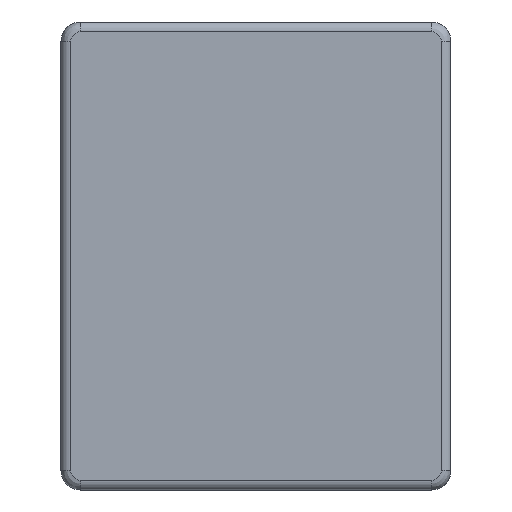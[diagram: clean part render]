
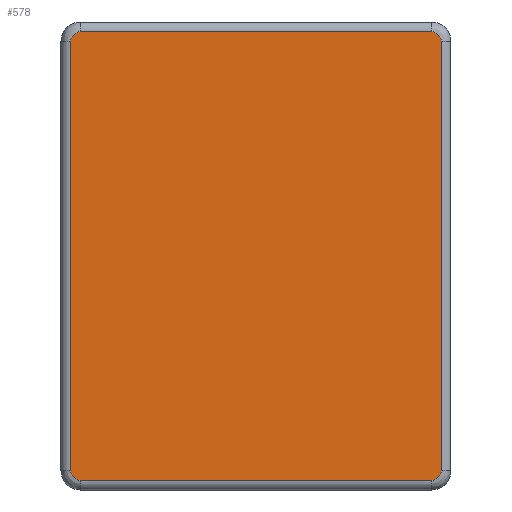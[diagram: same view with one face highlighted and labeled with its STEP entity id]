
A CAD part, left-side view. The second image highlights one B-rep face of the part: STEP entity #578.
In plain terms, the highlighted planar face has unit normal (-1, 0, 0).
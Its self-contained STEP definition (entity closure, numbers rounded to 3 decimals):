
#39=PLANE('',#662);
#69=FACE_OUTER_BOUND('',#109,.T.);
#109=EDGE_LOOP('',(#474,#475,#476,#477,#478,#479,#480,#481));
#144=LINE('',#962,#183);
#145=LINE('',#981,#184);
#147=LINE('',#1001,#186);
#149=LINE('',#1021,#188);
#183=VECTOR('',#774,10.);
#184=VECTOR('',#785,10.);
#186=VECTOR('',#797,10.);
#188=VECTOR('',#809,10.);
#222=CIRCLE('',#640,0.5);
#226=CIRCLE('',#645,0.5);
#230=CIRCLE('',#650,0.5);
#234=CIRCLE('',#655,0.5);
#267=VERTEX_POINT('',#955);
#270=VERTEX_POINT('',#960);
#272=VERTEX_POINT('',#973);
#274=VERTEX_POINT('',#979);
#276=VERTEX_POINT('',#993);
#278=VERTEX_POINT('',#999);
#280=VERTEX_POINT('',#1013);
#282=VERTEX_POINT('',#1019);
#329=EDGE_CURVE('',#270,#267,#144,.T.);
#331=EDGE_CURVE('',#272,#270,#222,.T.);
#334=EDGE_CURVE('',#274,#272,#145,.T.);
#337=EDGE_CURVE('',#276,#274,#226,.T.);
#340=EDGE_CURVE('',#278,#276,#147,.T.);
#343=EDGE_CURVE('',#280,#278,#230,.T.);
#346=EDGE_CURVE('',#282,#280,#149,.T.);
#349=EDGE_CURVE('',#267,#282,#234,.T.);
#474=ORIENTED_EDGE('',*,*,#329,.F.);
#475=ORIENTED_EDGE('',*,*,#331,.F.);
#476=ORIENTED_EDGE('',*,*,#334,.F.);
#477=ORIENTED_EDGE('',*,*,#337,.F.);
#478=ORIENTED_EDGE('',*,*,#340,.F.);
#479=ORIENTED_EDGE('',*,*,#343,.F.);
#480=ORIENTED_EDGE('',*,*,#346,.F.);
#481=ORIENTED_EDGE('',*,*,#349,.F.);
#578=ADVANCED_FACE('',(#69),#39,.F.);
#640=AXIS2_PLACEMENT_3D('',#975,#777,#778);
#645=AXIS2_PLACEMENT_3D('',#995,#789,#790);
#650=AXIS2_PLACEMENT_3D('',#1015,#801,#802);
#655=AXIS2_PLACEMENT_3D('',#1033,#813,#814);
#662=AXIS2_PLACEMENT_3D('',#1049,#833,#834);
#774=DIRECTION('',(0.,0.,-1.));
#777=DIRECTION('center_axis',(1.,0.,0.));
#778=DIRECTION('ref_axis',(0.,-0.707,0.707));
#785=DIRECTION('',(0.,-1.,0.));
#789=DIRECTION('center_axis',(1.,0.,0.));
#790=DIRECTION('ref_axis',(0.,0.707,0.707));
#797=DIRECTION('',(0.,0.,1.));
#801=DIRECTION('center_axis',(1.,0.,0.));
#802=DIRECTION('ref_axis',(0.,0.707,-0.707));
#809=DIRECTION('',(0.,1.,0.));
#813=DIRECTION('center_axis',(1.,0.,0.));
#814=DIRECTION('ref_axis',(0.,-0.707,-0.707));
#833=DIRECTION('center_axis',(1.,0.,0.));
#834=DIRECTION('ref_axis',(0.,1.,0.));
#955=CARTESIAN_POINT('',(0.,-9.5,-11.));
#960=CARTESIAN_POINT('',(0.,-9.5,11.));
#962=CARTESIAN_POINT('',(0.,-9.5,6.));
#973=CARTESIAN_POINT('',(0.,-9.,11.5));
#975=CARTESIAN_POINT('Origin',(0.,-9.,11.));
#979=CARTESIAN_POINT('',(0.,9.,11.5));
#981=CARTESIAN_POINT('',(0.,5.,11.5));
#993=CARTESIAN_POINT('',(0.,9.5,11.));
#995=CARTESIAN_POINT('Origin',(0.,9.,11.));
#999=CARTESIAN_POINT('',(0.,9.5,-11.));
#1001=CARTESIAN_POINT('',(0.,9.5,-6.));
#1013=CARTESIAN_POINT('',(0.,9.,-11.5));
#1015=CARTESIAN_POINT('Origin',(0.,9.,-11.));
#1019=CARTESIAN_POINT('',(0.,-9.,-11.5));
#1021=CARTESIAN_POINT('',(0.,-5.,-11.5));
#1033=CARTESIAN_POINT('Origin',(0.,-9.,-11.));
#1049=CARTESIAN_POINT('Origin',(0.,0.,0.));
